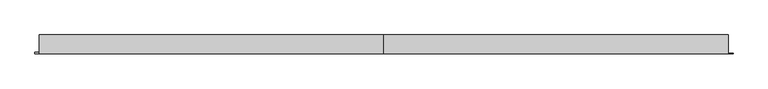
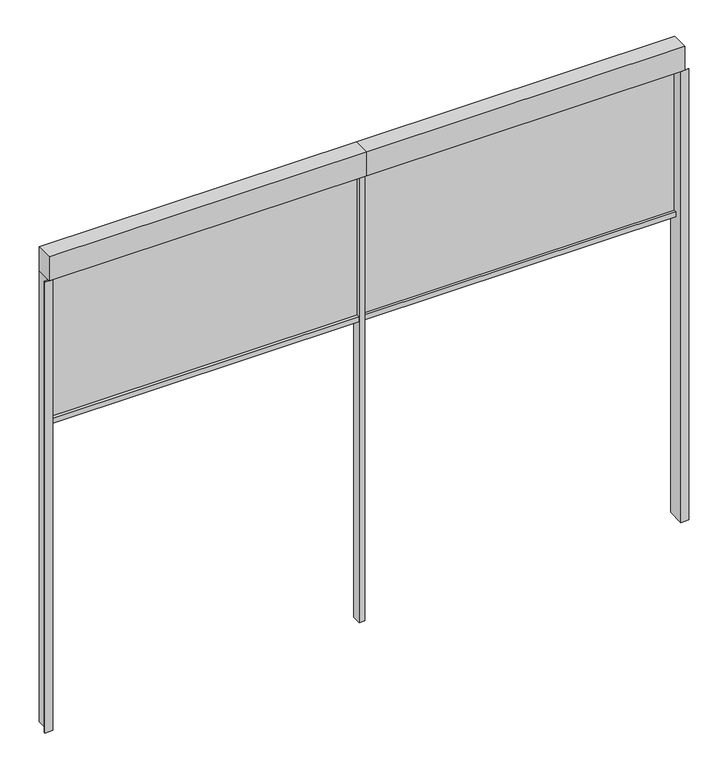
"""IFC4 building model written with IfcOpenShell, lengths in millimetres: proxy geometry, Renson_Fixscreen_Minimal_IM7B_With_CF : Recessed - Front of the window - Medium-CF - Access downwards - Fabric away from the window."""

from ifc_helpers import new_model, si_unit, frame, origin, place, context, project, spatial, polyline, outline, extrude, source, transform, mapped, element, save


def generic_models_342898e8(model_context):
    return source(origin(), model_context, "Body", "SweptSolid", [
        extrude(outline(polyline([(-775.0, -25.0002196), (-825.0005465, -25.0002196), (-825.0005465, -16.000101), (-798.0005465, -16.000101), (-798.0005465, 85.0), (-775.0, 85.0), (-775.0, -25.0002196)])), frame((0.0, 0.0, 800.0), z_axis=(0.0, 0.0, 1.0), x_axis=(1.0, 0.0, 0.0)), (0.0, 0.0, 1.0), 3000.0),
        extrude(outline(polyline([(-780.65, 49.0), (-780.65, 52.0), (1182.75, 52.0), (1182.75, 49.0), (-780.65, 49.0)])), frame((0.0, 0.0, 2812.5006852), z_axis=(0.0, 0.0, 1.0), x_axis=(1.0, 0.0, 0.0)), (0.0, 0.0, 1.0), 987.4993148),
        extrude(outline(polyline([(70.95, 2800.0), (30.45, 2800.0), (30.45, 2834.1156799), (47.85, 2835.0275753), (47.85, 2812.5006852), (53.55, 2812.5006852), (53.55, 2835.0275753), (70.95, 2834.1156799), (70.95, 2800.0)])), frame((-780.65, 0.0, 0.0), z_axis=(1.0, 0.0, 0.0), x_axis=(0.0, 1.0, 0.0)), (0.0, 0.0, 1.0), 1963.4),
        extrude(outline(polyline([(70.9955279, 2800.0), (30.4955279, 2800.0), (30.4955279, 2834.1156799), (47.8955279, 2835.0275753), (47.8955279, 2812.5006852), (53.5955279, 2812.5006852), (53.5955279, 2835.0275753), (70.9955279, 2834.1156799), (70.9955279, 2800.0)])), frame((1219.3, 0.0, 0.0), z_axis=(1.0, 0.0, 0.0), x_axis=(0.0, 1.0, 0.0)), (0.0, 0.0, 1.0), 1957.7),
        extrude(outline(polyline([(1219.3, 49.0), (1219.3, 52.0), (3177.0, 52.0), (3177.0, 49.0), (1219.3, 49.0)])), frame((0.0, 0.0, 2812.5006852), z_axis=(0.0, 0.0, 1.0), x_axis=(1.0, 0.0, 0.0)), (0.0, 0.0, 1.0), 987.4993148),
        extrude(outline(polyline([(3177.0, -25.0), (3177.0, 85.0), (3201.0, 85.0), (3201.0, -21.0), (3228.0, -21.0), (3228.0, -25.0), (3177.0, -25.0)])), frame((0.0, 0.0, 800.0), z_axis=(0.0, 0.0, 1.0), x_axis=(1.0, 0.0, 0.0)), (0.0, 0.0, 1.0), 3000.0),
        extrude(outline(polyline([(1201.0, -25.0), (1201.0, 85.0), (3201.0, 85.0), (3201.0, -25.0), (1201.0, -25.0)])), frame((0.0, 0.0, 3800.0), z_axis=(0.0, 0.0, 1.0), x_axis=(1.0, 0.0, 0.0)), (0.0, 0.0, 1.0), 160.0),
        extrude(outline(polyline([(-799.0, -25.0), (-799.0, 85.0), (1201.0, 85.0), (1201.0, -25.0), (-799.0, -25.0)])), frame((0.0, 0.0, 3800.0), z_axis=(0.0, 0.0, 1.0), x_axis=(1.0, 0.0, 0.0)), (0.0, 0.0, 1.0), 160.0),
        extrude(outline(polyline([(1219.25, 85.0), (1219.25, 28.75), (1182.75, 28.75), (1182.75, 85.0), (1219.25, 85.0)])), frame((0.0, 0.0, 800.0), z_axis=(0.0, 0.0, 1.0), x_axis=(1.0, 0.0, 0.0)), (0.0, 0.0, 1.0), 3000.0),
    ])


if __name__ == "__main__":
    model = new_model("IFC4")
    model_context = context("Model", 3, world=origin())
    ifc_project = project(units=[si_unit("LENGTHUNIT", "METRE", prefix="MILLI")], contexts=[model_context])
    site = spatial("IfcSite", under=ifc_project)
    building = spatial("IfcBuilding", under=site)
    placement = place(None, origin())
    generic_models_shape = generic_models_342898e8(model_context)
    element("IfcBuildingElementProxy", 1, Name="Renson_Fixscreen_Minimal_IM7B_With_CF : Recessed - Front of the window - Medium-CF - Access downwards - Fabric away from the window", ObjectType="Renson_Fixscreen_Minimal_IM7B_With_CF : Recessed - Front of the window - Medium-CF - Access downwards - Fabric away from the window", at=placement, inside=building, context=model_context, shape_type="MappedRepresentation", body=[
        mapped(generic_models_shape, transform((0.0, 0.0, 0.0), x_axis=(1.0, 0.0, 0.0), y_axis=(0.0, 1.0, 0.0), z_axis=(0.0, 0.0, 1.0))),
    ])
    save(model, "model.ifc")
